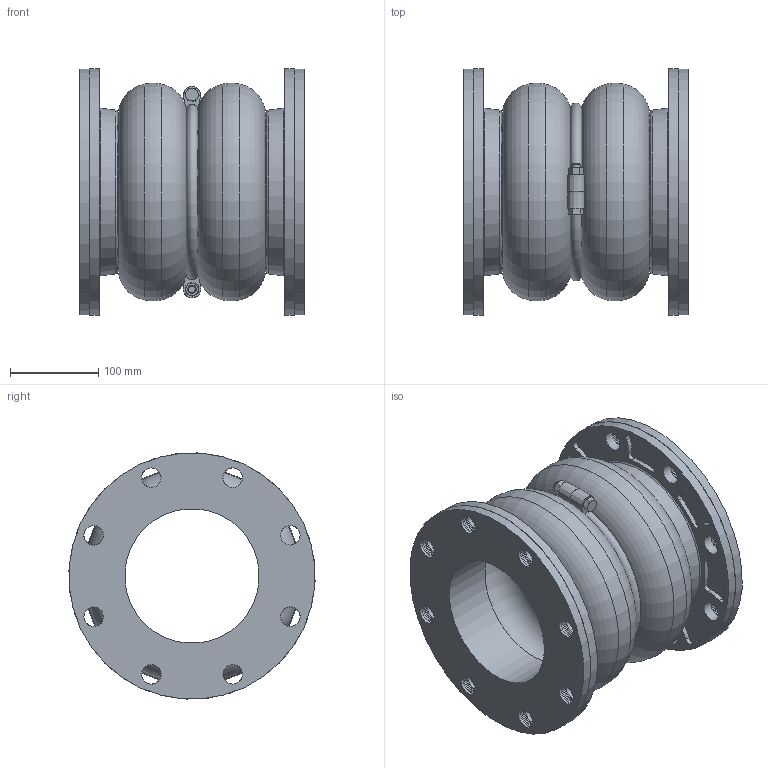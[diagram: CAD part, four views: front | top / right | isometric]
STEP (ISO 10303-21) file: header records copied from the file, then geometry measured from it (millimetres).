
FILE_DESCRIPTION((''),'2;1');
FILE_NAME('C:\2011_Work\Designs\Mercer\Stock Joints\450 Style\452\STEP\Style452 6x10.stp','2013-07-26T17:11:28',('mquog'),(''),'Autodesk Inventor 2011','Autodesk Inventor 2011','');
FILE_SCHEMA(('AUTOMOTIVE_DESIGN { 1 0 10303 214 1 1 1 1 }'));
Length unit declared in the file: inch
Products named in the file (6): Style452 6x10; 6DI450BUR150; 6_MBR; Hex Nut - Inch 3/8 - 16; Hex Bolt - Inch 3/8-16 UNC - 2; 452 6x10
Assembly tree (9 placements, depth 2):
  Style452 6x10
    6DI450BUR150  x2
    6_MBR  x2
    Hex Nut - Inch 3/8 - 16  x2
    Hex Bolt - Inch 3/8-16 UNC - 2  x2
    452 6x10
Bounding box: 254 x 279.06 x 279.06 mm (x, y, z)
Volume: 4918314.5 mm3; surface area: 3815959.1 mm2
Topology: 41 solids, 41 shells, 609 faces, 1390 edges, 875 vertices
Faces by surface type: cylinder 312, plane 138, torus 97, cone 46, bspline 16
Full cylindrical faces by diameter (mm): 7.798 x2, 9.525 x2, 9.855 x2, 11.113 x4, 14.275 x2, 22.225 x113, 152.4 x3, 158.75 x6, 165.1 x12, 169.164 x6, 173.228 x6, 176.403 x3, 176.468 x2, 184.15 x5, 273.05 x12, 279.33 x2, 279.4 x2
Entity records: 13899 total; most frequent: CARTESIAN_POINT 3571, DIRECTION 2214, ORIENTED_EDGE 1494, AXIS2_PLACEMENT_3D 1061, EDGE_LOOP 1010, EDGE_CURVE 747, VERTEX_POINT 634, CIRCLE 599
